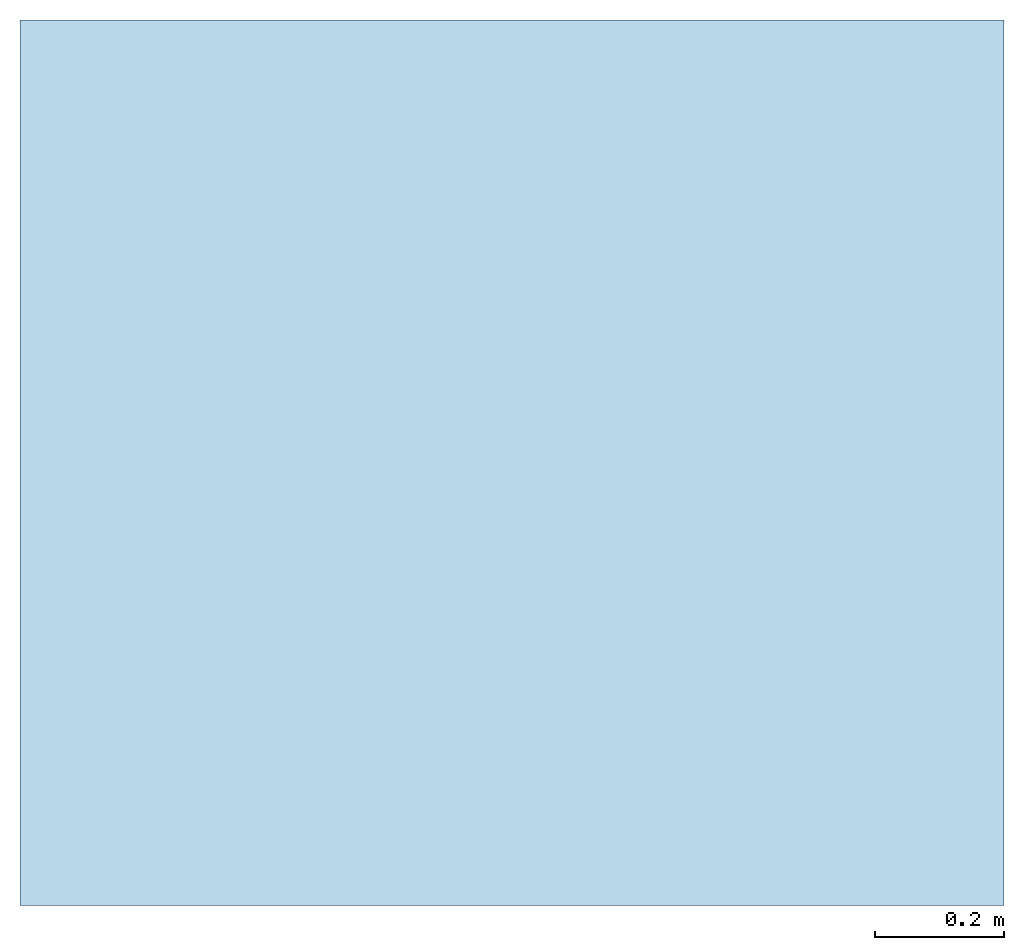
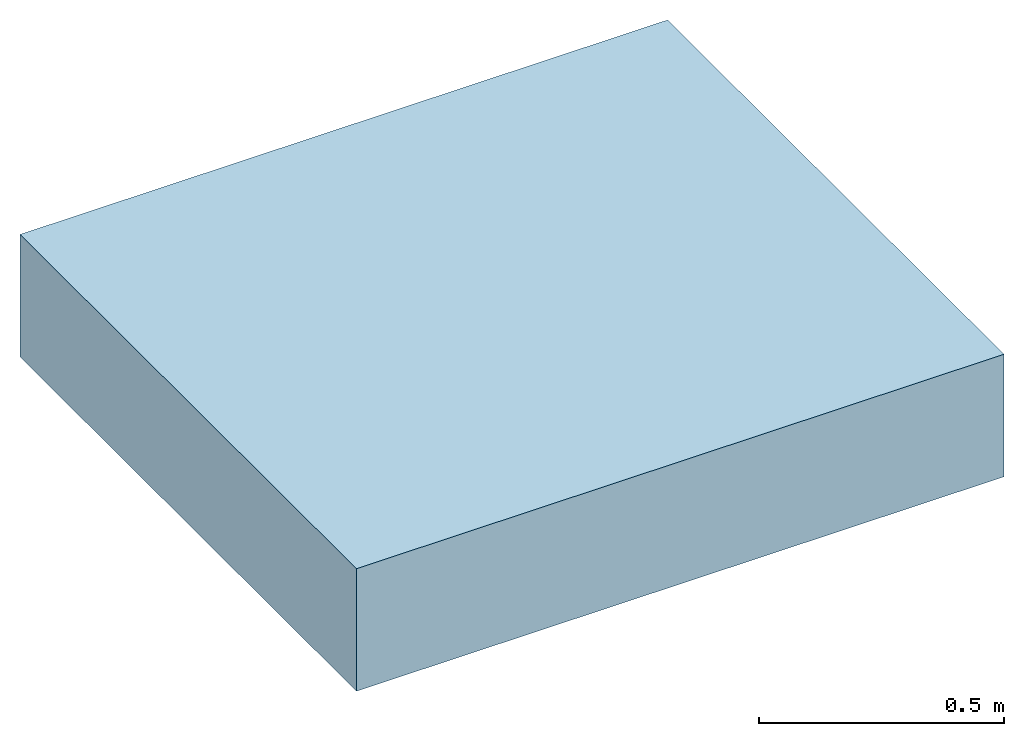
# One storey: 1 slab.
"""IFC2X3 building model written with IfcOpenShell, lengths in feet."""

from ifc_helpers import new_model, entity, si_unit, converted_unit, derived_unit, direction, frame, origin, origin_2d_with_axis, place, context, subcontext, project, spatial, rectangle, extrude, material, layer, layer_set, layer_usage, type_object, element, save


model = new_model("IFC2X3")

# Units and contexts
model_context = context("Model", 3, precision=0.0001, world=origin(), true_north=direction((6.12303176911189e-17, 1.0)))
body_context = subcontext(model_context, "Body", "Model", "MODEL_VIEW")
ifc_project = project(units=[converted_unit("LENGTHUNIT", "FOOT", entity("IfcRatioMeasure", 0.3048), si_unit("LENGTHUNIT", "METRE"), dimensions=[1, 0, 0, 0, 0, 0, 0]), converted_unit("AREAUNIT", "SQUARE FOOT", entity("IfcRatioMeasure", 0.09290304), si_unit("AREAUNIT", "SQUARE_METRE"), dimensions=[2, 0, 0, 0, 0, 0, 0]), converted_unit("VOLUMEUNIT", "CUBIC FOOT", entity("IfcRatioMeasure", 0.028316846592), si_unit("VOLUMEUNIT", "CUBIC_METRE"), dimensions=[3, 0, 0, 0, 0, 0, 0]), converted_unit("PLANEANGLEUNIT", "DEGREE", entity("IfcRatioMeasure", 0.0174532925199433), si_unit("PLANEANGLEUNIT", "RADIAN"), dimensions=[0, 0, 0, 0, 0, 0, 0]), si_unit("MASSUNIT", "GRAM", prefix="KILO"), derived_unit("MASSDENSITYUNIT", [(si_unit("MASSUNIT", "GRAM", prefix="KILO"), 1), (si_unit("LENGTHUNIT", "METRE"), -3)]), si_unit("TIMEUNIT", "SECOND"), si_unit("FREQUENCYUNIT", "HERTZ"), si_unit("THERMODYNAMICTEMPERATUREUNIT", "DEGREE_CELSIUS"), derived_unit("THERMALTRANSMITTANCEUNIT", [(si_unit("MASSUNIT", "GRAM", prefix="KILO"), 1), (si_unit("THERMODYNAMICTEMPERATUREUNIT", "KELVIN"), -1), (si_unit("TIMEUNIT", "SECOND"), -3)]), derived_unit("VOLUMETRICFLOWRATEUNIT", [(si_unit("LENGTHUNIT", "METRE"), 3), (si_unit("TIMEUNIT", "SECOND"), -1)]), si_unit("ELECTRICCURRENTUNIT", "AMPERE"), si_unit("ELECTRICVOLTAGEUNIT", "VOLT"), si_unit("POWERUNIT", "WATT"), si_unit("FORCEUNIT", "NEWTON"), si_unit("ILLUMINANCEUNIT", "LUX"), si_unit("LUMINOUSFLUXUNIT", "LUMEN"), si_unit("LUMINOUSINTENSITYUNIT", "CANDELA"), derived_unit("USERDEFINED", [(si_unit("MASSUNIT", "GRAM", prefix="KILO"), -1), (si_unit("LENGTHUNIT", "METRE"), -2), (si_unit("TIMEUNIT", "SECOND"), 3), (si_unit("LUMINOUSFLUXUNIT", "LUMEN"), 1)]), derived_unit("LINEARVELOCITYUNIT", [(si_unit("LENGTHUNIT", "METRE"), 1), (si_unit("TIMEUNIT", "SECOND"), -1)]), si_unit("PRESSUREUNIT", "PASCAL"), derived_unit("USERDEFINED", [(si_unit("LENGTHUNIT", "METRE"), -2), (si_unit("MASSUNIT", "GRAM", prefix="KILO"), 1), (si_unit("TIMEUNIT", "SECOND"), -2)])], contexts=[model_context])

# Site, building, storey
site_placement = place(None, origin())
site = spatial("IfcSite", under=ifc_project, at=site_placement, Name="Default", CompositionType="ELEMENT")
building_placement = place(site_placement, origin())
building = spatial("IfcBuilding", under=site, at=building_placement, CompositionType="ELEMENT")
storey_placement = place(building_placement, origin())
storey = spatial("IfcBuildingStorey", under=building, at=storey_placement, Name="Level 1", CompositionType="ELEMENT", Elevation=0.0)

# Slab
ifc_material = material(Name="Default Floor")
ifc_layer = layer(ifc_material, 1.0)
ifc_layer_set = layer_set([ifc_layer], Name="Floor:Generic - 12\"")
ifc_layer_usage = layer_usage(ifc_layer_set, "AXIS3", "POSITIVE", 0.0)
slab_type = type_object("IfcSlabType", Name="Floor:Generic - 12\"", PredefinedType="FLOOR", material=ifc_layer_set)
slab_placement = place(storey_placement, origin())
element("IfcSlab", 1, at=slab_placement, inside=storey, type_object=slab_type, material=ifc_layer_usage, Name="Floor:Generic - 12\"", ObjectType="Floor:Generic - 12\"", PredefinedType="FLOOR", context=body_context, shape_type="SweptSolid", body=[
    extrude(rectangle(XDim=4.5, YDim=5.0, at=origin_2d_with_axis()), frame((-4.60519785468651, 9.76823601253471, 0.0), z_axis=(0.0, 0.0, -1.0), x_axis=(0.0, 1.0, 0.0)), (0.0, 0.0, 1.0), 1.0),
])

save(model, "model.ifc")
